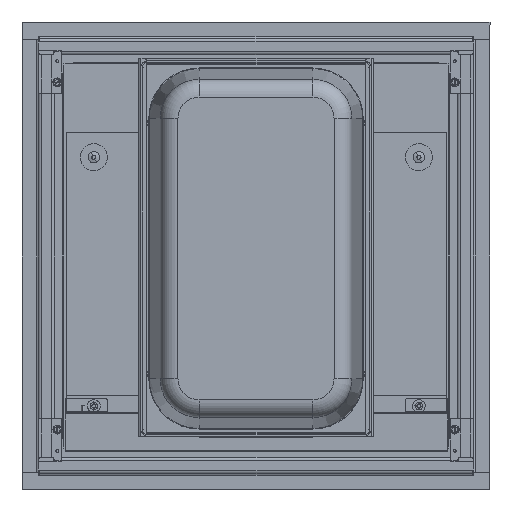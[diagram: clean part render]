
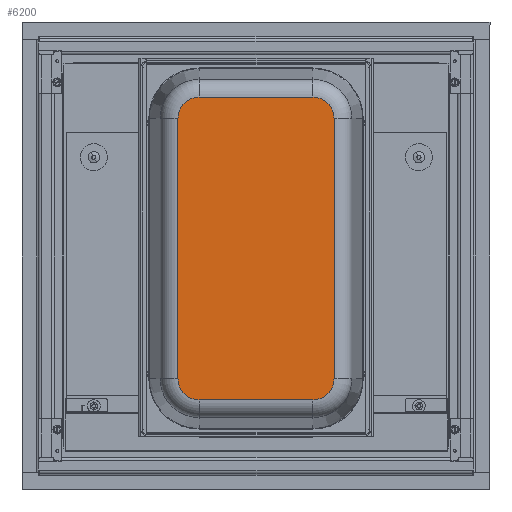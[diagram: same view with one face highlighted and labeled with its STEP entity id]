
A CAD part, front view. The second image highlights one B-rep face of the part: STEP entity #6200.
In plain terms, the highlighted planar face has unit normal (0, -1, 0).
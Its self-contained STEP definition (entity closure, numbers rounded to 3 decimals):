
#1458 = DIRECTION ( 'NONE',  ( 0., -1., 0. ) ) ;
#2205 = CARTESIAN_POINT ( 'NONE',  ( -14.26, -494.5, -223.355 ) ) ;
#2438 = DIRECTION ( 'NONE',  ( 0., -1., 0. ) ) ;
#2636 = DIRECTION ( 'NONE',  ( -1., 0., 0. ) ) ;
#3020 = LINE ( 'NONE', #54167, #52590 ) ;
#3756 = VERTEX_POINT ( 'NONE', #51352 ) ;
#4016 = DIRECTION ( 'NONE',  ( 1., 0., 0. ) ) ;
#5281 = ORIENTED_EDGE ( 'NONE', *, *, #49308, .T. ) ;
#5450 = EDGE_CURVE ( 'NONE', #55968, #33812, #12967, .T. ) ;
#6200 = ADVANCED_FACE ( 'NONE', ( #50184 ), #81566, .F. ) ;
#8797 = CARTESIAN_POINT ( 'NONE',  ( 145.74, -494.5, -223.355 ) ) ;
#8920 = DIRECTION ( 'NONE',  ( 1., 0., 0. ) ) ;
#8925 = EDGE_LOOP ( 'NONE', ( #27360, #67281, #65201, #58818, #12661, #5281, #52350, #16202 ) ) ;
#10798 = VERTEX_POINT ( 'NONE', #64315 ) ;
#11116 = AXIS2_PLACEMENT_3D ( 'NONE', #17458, #30512, #4016 ) ;
#12661 = ORIENTED_EDGE ( 'NONE', *, *, #47029, .T. ) ;
#12967 = CIRCLE ( 'NONE', #33790, 29.769 ) ;
#16202 = ORIENTED_EDGE ( 'NONE', *, *, #27004, .T. ) ;
#16875 = CARTESIAN_POINT ( 'NONE',  ( 145.74, -494.5, 202.183 ) ) ;
#17458 = CARTESIAN_POINT ( 'NONE',  ( -14.26, -494.5, 172.414 ) ) ;
#17801 = CARTESIAN_POINT ( 'NONE',  ( -14.26, -494.5, -193.586 ) ) ;
#21554 = CARTESIAN_POINT ( 'NONE',  ( -14.26, -494.5, 172.414 ) ) ;
#23318 = DIRECTION ( 'NONE',  ( 0., -1., 0. ) ) ;
#24130 = EDGE_CURVE ( 'NONE', #73123, #10798, #47964, .T. ) ;
#24160 = CARTESIAN_POINT ( 'NONE',  ( 145.74, -494.5, 172.414 ) ) ;
#24292 = DIRECTION ( 'NONE',  ( 0., -1., 0. ) ) ;
#27004 = EDGE_CURVE ( 'NONE', #52739, #55968, #50435, .T. ) ;
#27360 = ORIENTED_EDGE ( 'NONE', *, *, #5450, .T. ) ;
#28697 = LINE ( 'NONE', #44247, #60164 ) ;
#30512 = DIRECTION ( 'NONE',  ( 0., 1., 0. ) ) ;
#33790 = AXIS2_PLACEMENT_3D ( 'NONE', #21554, #2438, #8920 ) ;
#33812 = VERTEX_POINT ( 'NONE', #56316 ) ;
#34027 = CARTESIAN_POINT ( 'NONE',  ( -14.26, -494.5, 202.183 ) ) ;
#34897 = DIRECTION ( 'NONE',  ( 0., 0., -1. ) ) ;
#35082 = VERTEX_POINT ( 'NONE', #60218 ) ;
#39283 = AXIS2_PLACEMENT_3D ( 'NONE', #24160, #23318, #49750 ) ;
#39777 = EDGE_CURVE ( 'NONE', #35082, #52739, #51407, .T. ) ;
#40159 = CARTESIAN_POINT ( 'NONE',  ( 145.74, -494.5, -193.586 ) ) ;
#40438 = DIRECTION ( 'NONE',  ( 1., 0., 0. ) ) ;
#43195 = CARTESIAN_POINT ( 'NONE',  ( -44.029, -494.5, -193.586 ) ) ;
#44247 = CARTESIAN_POINT ( 'NONE',  ( 175.508, -494.5, 172.414 ) ) ;
#47029 = EDGE_CURVE ( 'NONE', #10798, #3756, #64630, .T. ) ;
#47964 = LINE ( 'NONE', #8797, #77382 ) ;
#49308 = EDGE_CURVE ( 'NONE', #3756, #35082, #28697, .T. ) ;
#49750 = DIRECTION ( 'NONE',  ( 1., 0., 0. ) ) ;
#50184 = FACE_OUTER_BOUND ( 'NONE', #8925, .T. ) ;
#50435 = LINE ( 'NONE', #67343, #79873 ) ;
#50721 = DIRECTION ( 'NONE',  ( 1., 0., 0. ) ) ;
#50746 = DIRECTION ( 'NONE',  ( 0., 0., 1. ) ) ;
#51352 = CARTESIAN_POINT ( 'NONE',  ( 175.508, -494.5, -193.586 ) ) ;
#51407 = CIRCLE ( 'NONE', #39283, 29.769 ) ;
#52003 = EDGE_CURVE ( 'NONE', #33812, #57161, #3020, .T. ) ;
#52350 = ORIENTED_EDGE ( 'NONE', *, *, #39777, .T. ) ;
#52590 = VECTOR ( 'NONE', #34897, 1000. ) ;
#52739 = VERTEX_POINT ( 'NONE', #16875 ) ;
#54062 = DIRECTION ( 'NONE',  ( 1., 0., 0. ) ) ;
#54167 = CARTESIAN_POINT ( 'NONE',  ( -44.029, -494.5, -193.586 ) ) ;
#55968 = VERTEX_POINT ( 'NONE', #34027 ) ;
#56316 = CARTESIAN_POINT ( 'NONE',  ( -44.029, -494.5, 172.414 ) ) ;
#57161 = VERTEX_POINT ( 'NONE', #43195 ) ;
#58818 = ORIENTED_EDGE ( 'NONE', *, *, #24130, .T. ) ;
#60164 = VECTOR ( 'NONE', #50746, 1000. ) ;
#60218 = CARTESIAN_POINT ( 'NONE',  ( 175.508, -494.5, 172.414 ) ) ;
#63572 = AXIS2_PLACEMENT_3D ( 'NONE', #17801, #24292, #50721 ) ;
#64315 = CARTESIAN_POINT ( 'NONE',  ( 145.74, -494.5, -223.355 ) ) ;
#64630 = CIRCLE ( 'NONE', #78487, 29.769 ) ;
#65201 = ORIENTED_EDGE ( 'NONE', *, *, #76878, .T. ) ;
#67281 = ORIENTED_EDGE ( 'NONE', *, *, #52003, .T. ) ;
#67343 = CARTESIAN_POINT ( 'NONE',  ( -14.26, -494.5, 202.183 ) ) ;
#71397 = CIRCLE ( 'NONE', #63572, 29.769 ) ;
#73123 = VERTEX_POINT ( 'NONE', #2205 ) ;
#76878 = EDGE_CURVE ( 'NONE', #57161, #73123, #71397, .T. ) ;
#77382 = VECTOR ( 'NONE', #54062, 1000. ) ;
#78487 = AXIS2_PLACEMENT_3D ( 'NONE', #40159, #1458, #40438 ) ;
#79873 = VECTOR ( 'NONE', #2636, 1000. ) ;
#81566 = PLANE ( 'NONE',  #11116 ) ;
